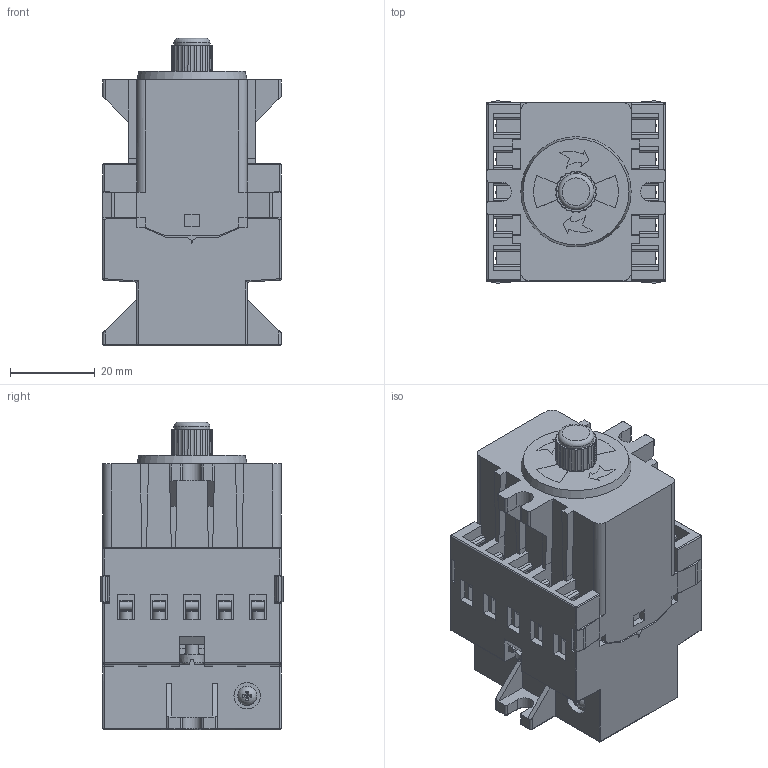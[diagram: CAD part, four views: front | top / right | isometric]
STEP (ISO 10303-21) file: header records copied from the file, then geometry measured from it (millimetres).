
FILE_DESCRIPTION(('STEP AP214'), '1');
FILE_NAME('Ðåëå ÐÝÏÓ-12Ì (3D çàêàç÷èêàì)', '2022-07-11T13:29:18', (''), (''), 'ASCON STEP Converter 1.6', 'ASCON Math Kernel', '');
FILE_SCHEMA(('AUTOMOTIVE_DESIGN { 1 0 10303 214 3 1 1}'));
Length unit declared in the file: millimetre
Products named in the file (1): ?ﾋﾖﾈ.647135.007
Bounding box: 42 x 43 x 72.5 mm (x, y, z)
Volume: 82912.9 mm3; surface area: 27491.7 mm2
Topology: 1 solids, 1 shells, 1537 faces, 4468 edges, 2890 vertices
Faces by surface type: plane 977, cylinder 318, bspline 116, cone 81, torus 31, sphere 14
Full cylindrical faces by diameter (mm): 3 x20, 4.5 x2, 6.2 x2, 7 x1, 8.5 x1
Entity records: 76941 total; most frequent: CARTESIAN_POINT 25034, ORIENTED_EDGE 8792, DIRECTION 7474, EDGE_CURVE 4396, VERTEX_POINT 2890, LINE 2832, VECTOR 2832, AXIS2_PLACEMENT_3D 2321
